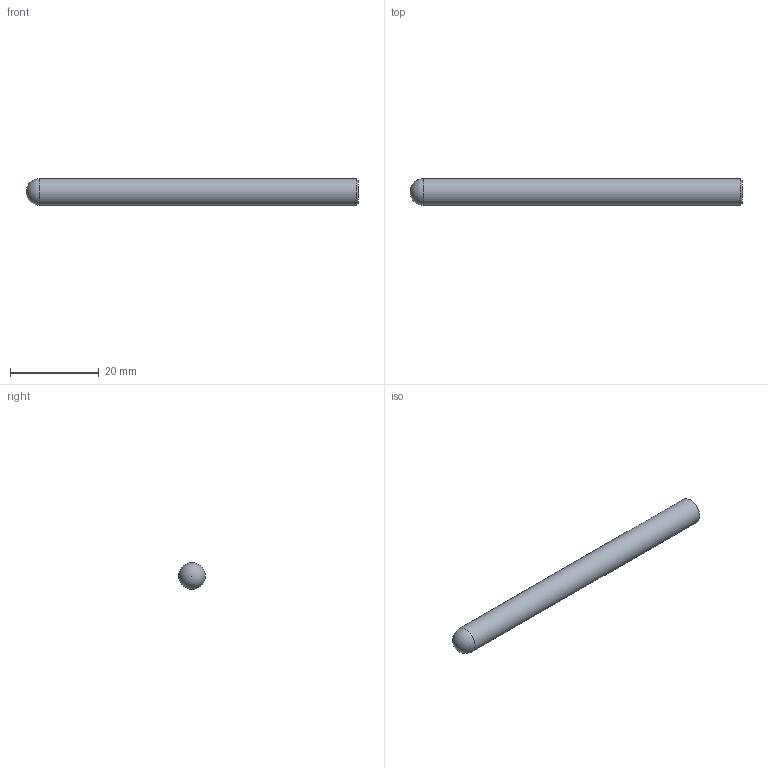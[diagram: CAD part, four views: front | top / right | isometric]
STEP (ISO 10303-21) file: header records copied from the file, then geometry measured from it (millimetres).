
FILE_DESCRIPTION(/* description */ (''),/* implementation_level */ '2;1');
FILE_NAME(/* name */ 'HSXB2060 0675.stp',/* time_stamp */ '2026-08-01T17:15:36+08:00',/* author */ (''),/* organization */ (''),/* preprocessor_version */ 'ST-DEVELOPER v16',/* originating_system */ 'SIEMENS PLM Software NX 10.0',/* authorisation */ '');
FILE_SCHEMA (('CONFIG_CONTROL_DESIGN'));
Length unit declared in the file: millimetre
Products named in the file (1): HSXB2060 0675_dxf
Bounding box: 75 x 6 x 6 mm (x, y, z)
Volume: 2091.5 mm3; surface area: 1438.6 mm2
Topology: 1 solids, 1 shells, 4 faces, 8 edges, 5 vertices
Faces by surface type: plane 1, sphere 1, cylinder 1, cone 1
Full cylindrical faces by diameter (mm): 6 x1
Entity records: 158 total; most frequent: DIRECTION 16, CARTESIAN_POINT 11, AXIS2_PLACEMENT_3D 8, PERSON_AND_ORGANIZATION 7, ORGANIZATION 7, EDGE_LOOP 6, ORIENTED_EDGE 6, DATE_AND_TIME 5
